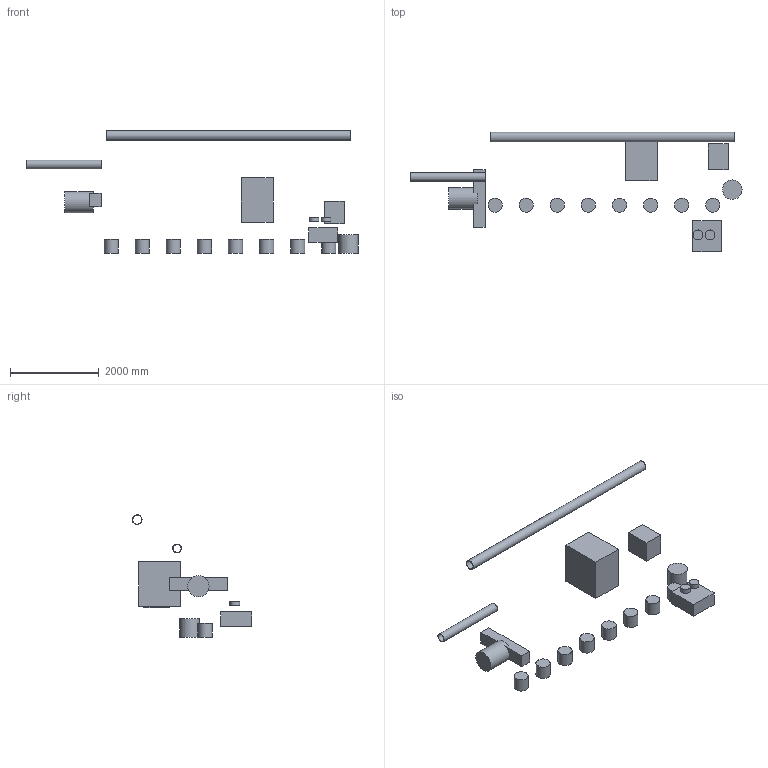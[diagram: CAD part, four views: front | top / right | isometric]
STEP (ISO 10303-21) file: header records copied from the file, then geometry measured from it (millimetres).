
FILE_DESCRIPTION(('FreeCAD Model'),'2;1');
FILE_NAME('Open CASCADE Shape Model','2026-10-28T17:35:04',('Author'),( ''),'Open CASCADE STEP processor 7.8','FreeCAD','Unknown');
FILE_SCHEMA(('AUTOMOTIVE_DESIGN { 1 0 10303 214 1 1 1 1 }'));
Length unit declared in the file: millimetre
Products named in the file (19): Haven1_Public_Reference_R1; Air revitalization / filter assembly; Cabin air-to-coolant heat exchanger; Cabin ventilation fan 1; Cabin ventilation fan 2; Oxygen / nitrox tank envelope; Oxygen / nitrox solenoid valve tray; Wet-trash container 1; Wet-trash container 2; Wet-trash container 3; Wet-trash container 4; Wet-trash container 5; Wet-trash container 6; Wet-trash container 7; Wet-trash container 8; Dragon intermodule ventilation duct envelope; Cabin ventilation duct envelope; Condensate separator envelope; Water resource tank envelope
Assembly tree (18 placements, depth 2):
  Haven1_Public_Reference_R1
    Air revitalization / filter assembly
    Cabin air-to-coolant heat exchanger
    Cabin ventilation fan 1
    Cabin ventilation fan 2
    Oxygen / nitrox tank envelope
    Oxygen / nitrox solenoid valve tray
    Wet-trash container 1
    Wet-trash container 2
    Wet-trash container 3
    Wet-trash container 4
    Wet-trash container 5
    Wet-trash container 6
    Wet-trash container 7
    Wet-trash container 8
    Dragon intermodule ventilation duct envelope
    Cabin ventilation duct envelope
    Condensate separator envelope
    Water resource tank envelope
Bounding box: 7480 x 2690 x 2760 mm (x, y, z)
Volume: 1492572352.4 mm3; surface area: 25222688.9 mm2
Topology: 18 solids, 18 shells, 68 faces, 96 edges, 64 vertices
Faces by surface type: plane 52, cylinder 16
Full cylindrical faces by diameter (mm): 180 x1, 200 x2, 220 x3, 320 x8, 440 x1, 480 x1
Entity records: 1760 total; most frequent: DIRECTION 302, CARTESIAN_POINT 247, ORIENTED_EDGE 192, AXIS2_PLACEMENT_3D 119, EDGE_CURVE 96, FACE_BOUND 72, EDGE_LOOP 72, ADVANCED_FACE 68
